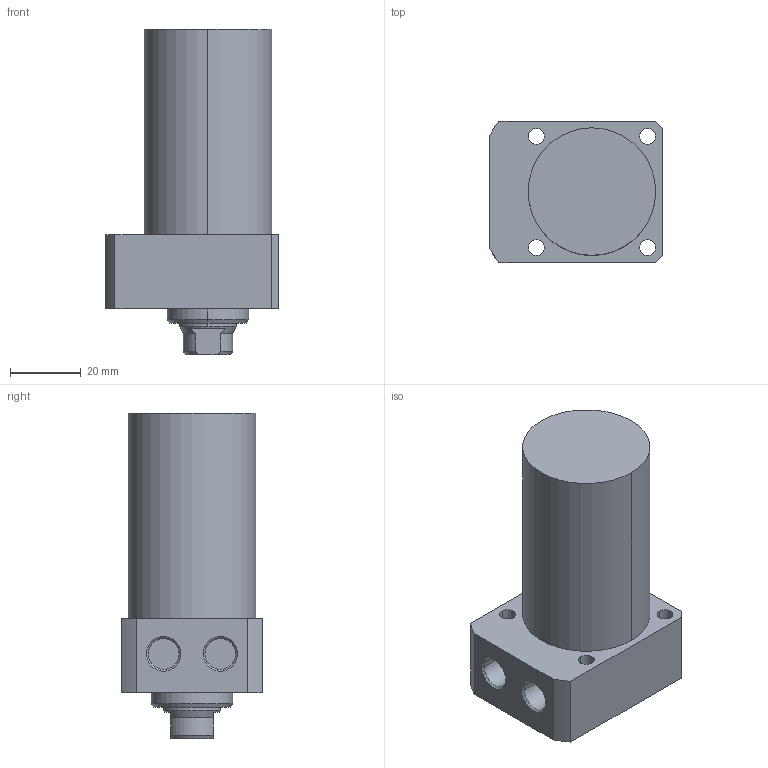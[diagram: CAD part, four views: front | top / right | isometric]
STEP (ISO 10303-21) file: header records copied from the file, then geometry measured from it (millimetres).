
FILE_DESCRIPTION((' '),'2;1');
FILE_NAME( 'TLLR-036CA-050.STEP.stp', '2025-10-24T16:35:44', (' '), ('--- Datakit www.datakit.com---'), ' Datakit CrossCadWare V2024.1 Dec 21 2023', 'Mastercam 2025', ' ');
FILE_SCHEMA(('AUTOMOTIVE_DESIGN { 1 0 10303 214 1 1 1 1 }'));
Length unit declared in the file: millimetre
Products named in the file (1): TLLR-036CA-050
Bounding box: 49 x 40 x 92 mm (x, y, z)
Volume: 99740.4 mm3; surface area: 16639.4 mm2
Topology: 1 solids, 1 shells, 61 faces, 172 edges, 119 vertices
Faces by surface type: cylinder 28, plane 19, cone 14
Entity records: 2092 total; most frequent: DIRECTION 384, CARTESIAN_POINT 383, ORIENTED_EDGE 340, EDGE_CURVE 170, AXIS2_PLACEMENT_3D 160, VERTEX_POINT 119, CIRCLE 98, EDGE_LOOP 77
